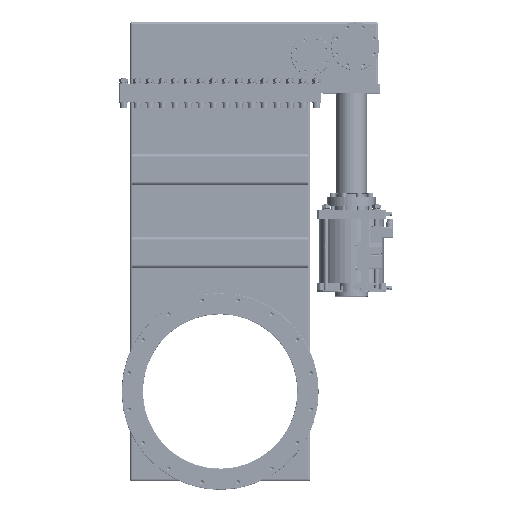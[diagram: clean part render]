
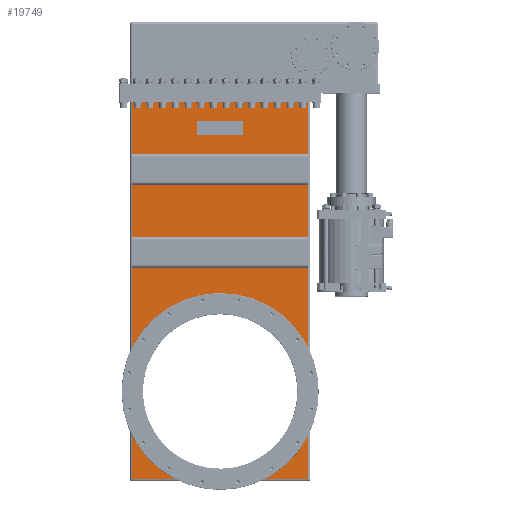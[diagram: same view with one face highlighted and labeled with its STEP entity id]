
A CAD part, top view. The second image highlights one B-rep face of the part: STEP entity #19749.
In plain terms, the highlighted planar face has unit normal (0, 0, 1).
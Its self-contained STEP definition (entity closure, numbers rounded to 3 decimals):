
#7976=LINE('',#101549,#11219);
#7978=LINE('',#101556,#11221);
#7979=LINE('',#101559,#11222);
#7980=LINE('',#101560,#11223);
#11219=VECTOR('',#77610,1.);
#11221=VECTOR('',#77618,1.);
#11222=VECTOR('',#77619,1.);
#11223=VECTOR('',#77620,1.);
#15702=FACE_BOUND('',#29212,.T.);
#15703=FACE_BOUND('',#29213,.T.);
#19749=ADVANCED_FACE('',(#15702,#15703),#22510,.F.);
#22510=PLANE('',#64966);
#29212=EDGE_LOOP('',(#41260));
#29213=EDGE_LOOP('',(#41261,#41262,#41263,#41264));
#41260=ORIENTED_EDGE('',*,*,#56269,.T.);
#41261=ORIENTED_EDGE('',*,*,#56270,.T.);
#41262=ORIENTED_EDGE('',*,*,#56271,.T.);
#41263=ORIENTED_EDGE('',*,*,#56266,.F.);
#41264=ORIENTED_EDGE('',*,*,#56272,.T.);
#49521=VERTEX_POINT('',#101548);
#49522=VERTEX_POINT('',#101550);
#49523=VERTEX_POINT('',#101555);
#49524=VERTEX_POINT('',#101557);
#49525=VERTEX_POINT('',#101558);
#56266=EDGE_CURVE('',#49521,#49522,#7976,.T.);
#56269=EDGE_CURVE('',#49523,#49523,#60147,.T.);
#56270=EDGE_CURVE('',#49524,#49525,#7978,.T.);
#56271=EDGE_CURVE('',#49525,#49522,#7979,.T.);
#56272=EDGE_CURVE('',#49521,#49524,#7980,.T.);
#60147=CIRCLE('',#64965,226.6);
#64965=AXIS2_PLACEMENT_3D('',#101554,#77616,#77617);
#64966=AXIS2_PLACEMENT_3D('',#101561,#77621,#77622);
#77610=DIRECTION('',(1.,0.,0.));
#77616=DIRECTION('',(0.,0.,-1.));
#77617=DIRECTION('',(-1.,0.,0.));
#77618=DIRECTION('',(1.,0.,0.));
#77619=DIRECTION('',(0.,1.,0.));
#77620=DIRECTION('',(0.,-1.,0.));
#77621=DIRECTION('',(0.,0.,-1.));
#77622=DIRECTION('',(-1.,0.,0.));
#101548=CARTESIAN_POINT('',(-227.,760.2,33.5));
#101549=CARTESIAN_POINT('',(0.,760.2,33.5));
#101550=CARTESIAN_POINT('',(227.,760.2,33.5));
#101554=CARTESIAN_POINT('',(0.,0.,33.5));
#101555=CARTESIAN_POINT('',(-226.6,0.,33.5));
#101556=CARTESIAN_POINT('',(0.,-226.75,33.5));
#101557=CARTESIAN_POINT('',(-227.,-226.75,33.5));
#101558=CARTESIAN_POINT('',(227.,-226.75,33.5));
#101559=CARTESIAN_POINT('',(227.,0.,33.5));
#101560=CARTESIAN_POINT('',(-227.,0.,33.5));
#101561=CARTESIAN_POINT('',(0.,0.,33.5));
